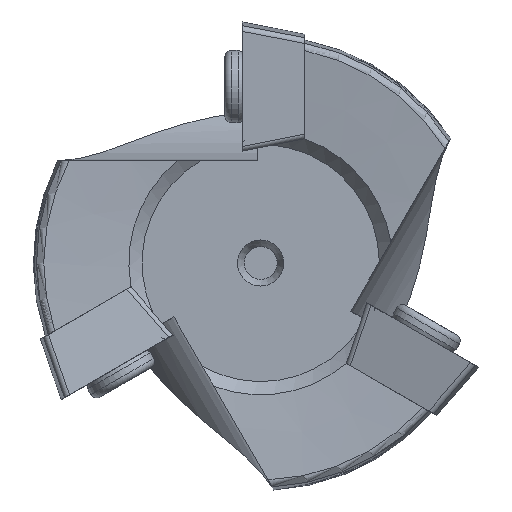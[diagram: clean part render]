
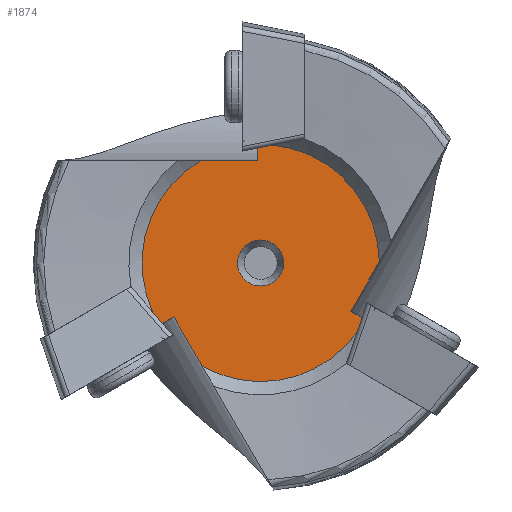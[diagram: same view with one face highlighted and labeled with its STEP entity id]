
A CAD part, left-side view. The second image highlights one B-rep face of the part: STEP entity #1874.
In plain terms, the highlighted planar face has unit normal (-1, 0, 0).
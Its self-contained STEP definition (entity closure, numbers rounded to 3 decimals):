
#74=FACE_BOUND('',#341,.T.);
#161=PLANE('',#2118);
#228=FACE_OUTER_BOUND('',#340,.T.);
#340=EDGE_LOOP('',(#1458,#1459,#1460,#1461,#1462,#1463,#1464,#1465,#1466,
#1467,#1468,#1469));
#341=EDGE_LOOP('',(#1470,#1471));
#480=LINE('',#2894,#584);
#486=LINE('',#2918,#590);
#492=LINE('',#2947,#596);
#494=LINE('',#2960,#598);
#498=LINE('',#2982,#602);
#501=LINE('',#3056,#605);
#504=LINE('',#3244,#608);
#506=LINE('',#3248,#610);
#508=LINE('',#3254,#612);
#584=VECTOR('',#2259,10.);
#590=VECTOR('',#2275,10.);
#596=VECTOR('',#2297,10.);
#598=VECTOR('',#2309,10.);
#602=VECTOR('',#2325,10.);
#605=VECTOR('',#2346,10.);
#608=VECTOR('',#2425,10.);
#610=VECTOR('',#2431,10.);
#612=VECTOR('',#2439,10.);
#705=CIRCLE('',#2081,9.);
#723=CIRCLE('',#2119,9.);
#724=CIRCLE('',#2120,9.);
#725=CIRCLE('',#2121,1.75);
#726=CIRCLE('',#2122,1.75);
#778=VERTEX_POINT('',#2891);
#779=VERTEX_POINT('',#2893);
#788=VERTEX_POINT('',#2915);
#789=VERTEX_POINT('',#2917);
#798=VERTEX_POINT('',#2945);
#801=VERTEX_POINT('',#2958);
#809=VERTEX_POINT('',#2979);
#810=VERTEX_POINT('',#2981);
#821=VERTEX_POINT('',#3055);
#827=VERTEX_POINT('',#3079);
#848=VERTEX_POINT('',#3240);
#849=VERTEX_POINT('',#3253);
#850=VERTEX_POINT('',#3256);
#851=VERTEX_POINT('',#3257);
#975=EDGE_CURVE('',#779,#778,#480,.T.);
#985=EDGE_CURVE('',#789,#788,#486,.T.);
#998=EDGE_CURVE('',#778,#798,#492,.T.);
#1004=EDGE_CURVE('',#788,#801,#494,.T.);
#1013=EDGE_CURVE('',#810,#809,#498,.T.);
#1029=EDGE_CURVE('',#821,#810,#501,.T.);
#1037=EDGE_CURVE('',#821,#827,#705,.T.);
#1074=EDGE_CURVE('',#798,#848,#504,.T.);
#1076=EDGE_CURVE('',#801,#827,#506,.T.);
#1078=EDGE_CURVE('',#789,#848,#723,.T.);
#1079=EDGE_CURVE('',#809,#849,#508,.T.);
#1080=EDGE_CURVE('',#779,#849,#724,.T.);
#1081=EDGE_CURVE('',#850,#851,#725,.T.);
#1082=EDGE_CURVE('',#851,#850,#726,.T.);
#1458=ORIENTED_EDGE('',*,*,#975,.T.);
#1459=ORIENTED_EDGE('',*,*,#998,.T.);
#1460=ORIENTED_EDGE('',*,*,#1074,.T.);
#1461=ORIENTED_EDGE('',*,*,#1078,.F.);
#1462=ORIENTED_EDGE('',*,*,#985,.T.);
#1463=ORIENTED_EDGE('',*,*,#1004,.T.);
#1464=ORIENTED_EDGE('',*,*,#1076,.T.);
#1465=ORIENTED_EDGE('',*,*,#1037,.F.);
#1466=ORIENTED_EDGE('',*,*,#1029,.T.);
#1467=ORIENTED_EDGE('',*,*,#1013,.T.);
#1468=ORIENTED_EDGE('',*,*,#1079,.T.);
#1469=ORIENTED_EDGE('',*,*,#1080,.F.);
#1470=ORIENTED_EDGE('',*,*,#1081,.T.);
#1471=ORIENTED_EDGE('',*,*,#1082,.T.);
#1874=ADVANCED_FACE('',(#228,#74),#161,.T.);
#2081=AXIS2_PLACEMENT_3D('',#3080,#2356,#2357);
#2118=AXIS2_PLACEMENT_3D('',#3251,#2435,#2436);
#2119=AXIS2_PLACEMENT_3D('',#3252,#2437,#2438);
#2120=AXIS2_PLACEMENT_3D('',#3255,#2440,#2441);
#2121=AXIS2_PLACEMENT_3D('',#3258,#2442,#2443);
#2122=AXIS2_PLACEMENT_3D('',#3259,#2444,#2445);
#2259=DIRECTION('',(0.,-0.656,-0.755));
#2275=DIRECTION('',(0.,-0.326,0.946));
#2297=DIRECTION('',(0.,-0.866,0.5));
#2309=DIRECTION('',(0.,0.866,0.5));
#2325=DIRECTION('',(0.,0.,-1.));
#2346=DIRECTION('',(0.,0.982,-0.191));
#2356=DIRECTION('center_axis',(1.,0.,0.));
#2357=DIRECTION('ref_axis',(0.,0.,-1.));
#2425=DIRECTION('',(0.,-0.5,-0.866));
#2431=DIRECTION('',(0.,-0.5,0.866));
#2435=DIRECTION('center_axis',(-1.,0.,0.));
#2436=DIRECTION('ref_axis',(0.,0.,1.));
#2437=DIRECTION('center_axis',(1.,0.,0.));
#2438=DIRECTION('ref_axis',(0.,0.,-1.));
#2439=DIRECTION('',(0.,1.,0.));
#2440=DIRECTION('center_axis',(1.,0.,0.));
#2441=DIRECTION('ref_axis',(0.,0.,-1.));
#2442=DIRECTION('center_axis',(1.,0.,0.));
#2443=DIRECTION('ref_axis',(0.,0.,-1.));
#2444=DIRECTION('center_axis',(1.,0.,0.));
#2445=DIRECTION('ref_axis',(0.,0.,-1.));
#2891=CARTESIAN_POINT('',(-87.257,7.448,-4.589));
#2893=CARTESIAN_POINT('',(-87.257,8.186,-3.741));
#2894=CARTESIAN_POINT('',(-87.257,5.221,-7.151));
#2915=CARTESIAN_POINT('',(-87.257,-7.698,-4.156));
#2917=CARTESIAN_POINT('',(-87.257,-7.333,-5.218));
#2918=CARTESIAN_POINT('',(-87.257,-6.313,-8.181));
#2945=CARTESIAN_POINT('',(-87.257,6.587,-4.092));
#2947=CARTESIAN_POINT('',(-87.257,7.236,-4.467));
#2958=CARTESIAN_POINT('',(-87.257,-6.837,-3.658));
#2960=CARTESIAN_POINT('',(-87.257,-7.486,-4.033));
#2979=CARTESIAN_POINT('',(-87.257,0.25,7.75));
#2981=CARTESIAN_POINT('',(-87.257,0.25,8.745));
#2982=CARTESIAN_POINT('',(-87.257,0.25,1.75));
#3055=CARTESIAN_POINT('',(-87.257,-0.853,8.959));
#3056=CARTESIAN_POINT('',(-87.257,1.091,8.581));
#3079=CARTESIAN_POINT('',(-87.257,-9.,0.088));
#3080=CARTESIAN_POINT('Origin',(-87.257,0.,0.));
#3240=CARTESIAN_POINT('',(-87.257,4.424,-7.838));
#3244=CARTESIAN_POINT('',(-87.257,0.201,-15.152));
#3248=CARTESIAN_POINT('',(-87.257,-9.326,0.652));
#3251=CARTESIAN_POINT('Origin',(-87.257,0.,-9.));
#3252=CARTESIAN_POINT('Origin',(-87.257,0.,0.));
#3253=CARTESIAN_POINT('',(-87.257,4.576,7.75));
#3254=CARTESIAN_POINT('',(-87.257,9.125,7.75));
#3255=CARTESIAN_POINT('Origin',(-87.257,0.,0.));
#3256=CARTESIAN_POINT('',(-87.257,0.,-1.75));
#3257=CARTESIAN_POINT('',(-87.257,0.,1.75));
#3258=CARTESIAN_POINT('Origin',(-87.257,0.,0.));
#3259=CARTESIAN_POINT('Origin',(-87.257,0.,0.));
